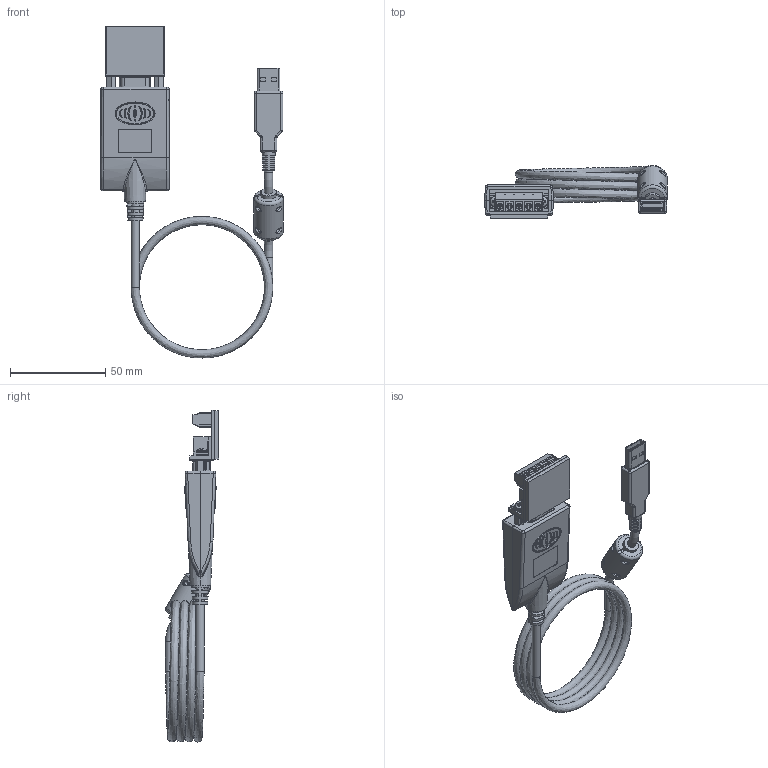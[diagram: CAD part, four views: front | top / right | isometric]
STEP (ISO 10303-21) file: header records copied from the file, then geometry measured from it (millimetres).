
FILE_DESCRIPTION(/* description */ (''),/* implementation_level */ '2;1');
FILE_NAME(/* name */ 'C:/Users/Leo/Desktop/AA CoolGear CADs/US-485422/US-485422 Model3D LPV1.step',/* time_stamp */ '2021-05-24T11:48:31-04:00',/* author */ (''),/* organization */ (''),/* preprocessor_version */ 'ST-DEVELOPER v18.1',/* originating_system */ 'Autodesk Translation Framework v10.6.0.1341',/* authorisation */ '');
FILE_SCHEMA (('AUTOMOTIVE_DESIGN { 1 0 10303 214 3 1 1 }'));
Products named in the file (8): US-485422; 91300A102; Component14; 5063N17_CIRCUIT BOARD D-SUB CONNECTOR; Terminal 5 holes srew v1; 91772A108; Component20; Component21
Assembly tree (9 placements, depth 3):
  US-485422
    91300A102  x2
    Component14
      5063N17_CIRCUIT BOARD D-SUB CONNECTOR
    Terminal 5 holes srew v1
    91772A108  x2
    Component20
    Component21
Bounding box: 95.83 x 27.86 x 174.32 mm (x, y, z)
Volume: 39140.7 mm3; surface area: 46122.2 mm2
Topology: 6 solids, 6 shells, 2162 faces, 5702 edges, 3649 vertices
Faces by surface type: plane 1066, cylinder 642, bspline 203, torus 106, cone 99, sphere 46
Full cylindrical faces by diameter (mm): 0.635 x9, 0.991 x9, 1 x10, 1.2 x9, 1.5 x10, 1.524 x9, 1.98 x9, 2 x9, 2.02 x50, 2.684 x1, 2.715 x1, 2.8 x5, 2.845 x46, 3.048 x2, 3.2 x4, 3.3 x5, 3.5 x5, 4.3 x8, 5.563 x4, 8 x2, 10 x2, 10.4 x2, 15.4 x1
Entity records: 89076 total; most frequent: CARTESIAN_POINT 37649, ORIENTED_EDGE 11092, DIRECTION 10128, EDGE_CURVE 5546, VERTEX_POINT 3571, AXIS2_PLACEMENT_3D 3561, LINE 3006, VECTOR 3006
